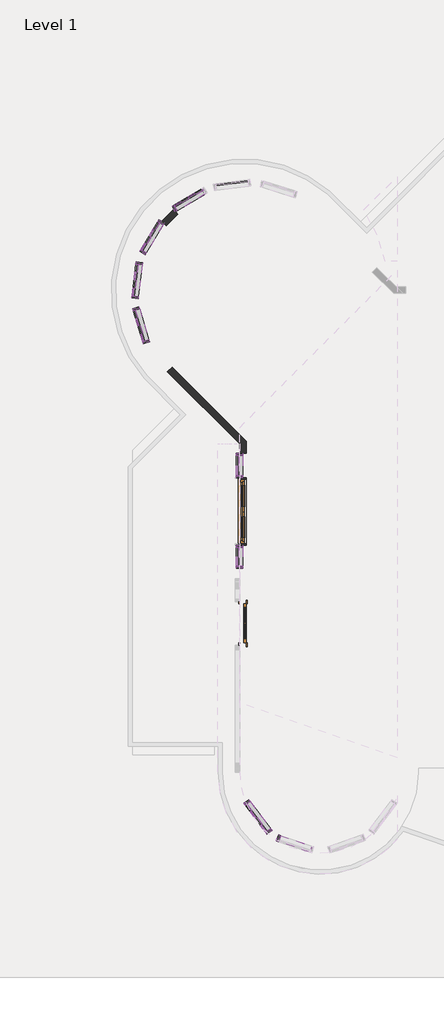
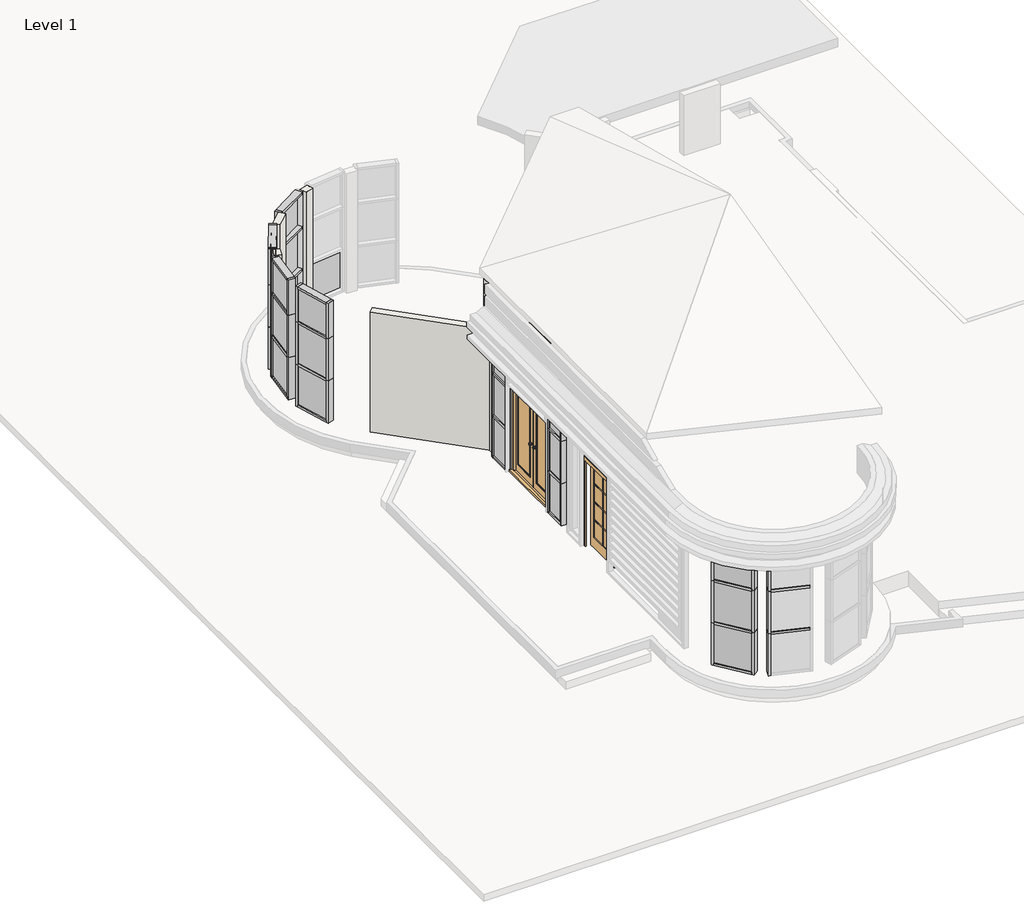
# One storey, part 1 of 4: 73 members, 22 plates, 6 walls, 2 doors.
"""IFC4 building model written with IfcOpenShell, lengths in millimetres."""

from ifc_helpers import new_model, si_unit, point, frame_2d, origin, origin_with_axes, place, context, project, spatial, polyline, circle_curve, trimmed, segment, composite_curve, outline, extrude, faceted_brep, transform, mapped, element, save
from components import door_8_lite_patio_door_w_transom_5280_db97a988, extdbl_3_1510_x_2110mm_da252324, rectangular_mullion_50_x_150mm_306d9536, rectangular_mullion_50_x_150mm_b753879e, rectangular_mullion_50_x_150mm_54334a98, rectangular_mullion_50_x_150mm_e9a6231c, rectangular_mullion_50_x_150mm_8999202d, rectangular_mullion_50_x_150mm_a0a80ad6, rectangular_mullion_50_x_150mm_e9c7c7e3, rectangular_mullion_50_x_150mm_0539f9e4, rectangular_mullion_50_x_150mm_eeb88b28, rectangular_mullion_50_x_150mm_bbba4ab8, rectangular_mullion_50_x_150mm_0c82eb51, rectangular_mullion_50_x_150mm_519b93b0, rectangular_mullion_50_x_150mm_987aa74a, rectangular_mullion_50_x_150mm_48361b01, rectangular_mullion_50_x_150mm_030a5d58, rectangular_mullion_50_x_150mm_daa8cdbe, rectangular_mullion_50_x_150mm_ae5d5628, rectangular_mullion_50_x_150mm_7cabd389, rectangular_mullion_50_x_150mm_0c16336d, rectangular_mullion_50_x_150mm_73a4a083, system_panel_glazed_84004d27, system_panel_glazed_ea0553d6, system_panel_glazed_a4d4e721, system_panel_glazed_57b9541b, system_panel_glazed_c8547359, system_panel_glazed_fb9fd98d, system_panel_glazed_4ee038b0, system_panel_glazed_db75a631, system_panel_glazed_a4be1827, system_panel_glazed_e302ad19, system_panel_glazed_0caff73c, system_panel_glazed_11e41723, system_panel_glazed_2d69d382, system_panel_glazed_ba248cac, system_panel_glazed_2f951cd1, system_panel_glazed_489dbc1c, system_panel_glazed_ef35c594, system_panel_glazed_692667b3, system_panel_glazed_069f12c1, system_panel_glazed_03557e9a, system_panel_glazed_902a8636, system_panel_glazed_ace2095a

model = new_model("IFC4")

# Units and contexts
model_context = context("Model", 3, world=origin())
ifc_project = project(units=[si_unit("LENGTHUNIT", "METRE", prefix="MILLI")], contexts=[model_context])

# Site, building, storey
site = spatial("IfcSite", under=ifc_project)
building = spatial("IfcBuilding", under=site)
storey = spatial("IfcBuildingStorey", under=building, Name="Level 1", Elevation=0.0)

# Doors
placement = place(None, origin())
door_8_lite_patio_door_w_transom_5280_shape = door_8_lite_patio_door_w_transom_5280_db97a988(model_context)
element("IfcDoor", 1, ObjectType="8_lite_patio_door_w_transom_5280 : 36\" x 80\" w/transom\"", at=placement, inside=storey, context=model_context, shape_type="MappedRepresentation", body=[
    mapped(door_8_lite_patio_door_w_transom_5280_shape, transform((30896.2049406, 20228.047331, 360.0), x_axis=(0.0, -1.0, 0.0), y_axis=(1.0, 0.0, 0.0), z_axis=(0.0, 0.0, 1.0))),
])
extdbl_3_1510_x_2110mm_shape = extdbl_3_1510_x_2110mm_da252324(model_context)
element("IfcDoor", 2, ObjectType="ExtDbl (3) : 1510 x 2110mm", at=placement, inside=storey, context=model_context, shape_type="MappedRepresentation", body=[
    mapped(extdbl_3_1510_x_2110mm_shape, transform((30896.2049406, 22927.0678064, 360.0), x_axis=(0.0, 1.0, 0.0), y_axis=(-1.0, 0.0, 0.0), z_axis=(0.0, 0.0, 1.0))),
])

# Members
rectangular_mullion_50_x_150mm_shape = rectangular_mullion_50_x_150mm_306d9536(model_context)
element("IfcMember", 3, ObjectType="Rectangular Mullion : 50 x 150mm", at=placement, inside=storey, context=model_context, shape_type="MappedRepresentation", body=[
    mapped(rectangular_mullion_50_x_150mm_shape, transform((29318.1054037, 30044.3469264, 360.0), x_axis=(0.0, 0.0, -1.0), y_axis=(0.5142878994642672, -0.8576176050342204, 0.0), z_axis=(-0.8576176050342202, -0.5142878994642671, 0.0))),
])
rectangular_mullion_50_x_150mm_2_shape = rectangular_mullion_50_x_150mm_b753879e(model_context)
element("IfcMember", 4, ObjectType="Rectangular Mullion : 50 x 150mm", at=placement, inside=storey, context=model_context, shape_type="MappedRepresentation", body=[
    mapped(rectangular_mullion_50_x_150mm_2_shape, transform((29975.2848233, 30438.4379773, 1360.0), x_axis=(0.0, 0.0, 1.0), y_axis=(0.5142878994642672, -0.8576176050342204, 0.0), z_axis=(0.8576176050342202, 0.5142878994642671, 0.0))),
])
rectangular_mullion_50_x_150mm_3_shape = rectangular_mullion_50_x_150mm_54334a98(model_context)
element("IfcMember", 5, ObjectType="Rectangular Mullion : 50 x 150mm", at=placement, inside=storey, context=model_context, shape_type="MappedRepresentation", body=[
    mapped(rectangular_mullion_50_x_150mm_3_shape, transform((28569.8980949, 29033.6828785, 360.0), x_axis=(0.0, 0.0, -1.0), y_axis=(0.8574675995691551, -0.5145379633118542, 0.0), z_axis=(-0.5145379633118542, -0.8574675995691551, 0.0))),
])
rectangular_mullion_50_x_150mm_4_shape = rectangular_mullion_50_x_150mm_e9a6231c(model_context)
element("IfcMember", 6, ObjectType="Rectangular Mullion : 50 x 150mm", at=placement, inside=storey, context=model_context, shape_type="MappedRepresentation", body=[
    mapped(rectangular_mullion_50_x_150mm_4_shape, transform((28963.7835019, 29690.0853183, 1360.0), x_axis=(0.0, 0.0, 1.0), y_axis=(0.8574675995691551, -0.5145379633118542, 0.0), z_axis=(0.5145379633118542, 0.8574675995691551, 0.0))),
])
rectangular_mullion_50_x_150mm_5_shape = rectangular_mullion_50_x_150mm_8999202d(model_context)
element("IfcMember", 7, ObjectType="Rectangular Mullion : 50 x 150mm", at=placement, inside=storey, context=model_context, shape_type="MappedRepresentation", body=[
    mapped(rectangular_mullion_50_x_150mm_5_shape, transform((28373.7257725, 27976.6899529, 360.0), x_axis=(0.0, 0.0, -1.0), y_axis=(0.9927922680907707, -0.11984787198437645, 0.0), z_axis=(-0.11984787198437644, -0.9927922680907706, 0.0))),
])
rectangular_mullion_50_x_150mm_6_shape = rectangular_mullion_50_x_150mm_a0a80ad6(model_context)
element("IfcMember", 8, ObjectType="Rectangular Mullion : 50 x 150mm", at=placement, inside=storey, context=model_context, shape_type="MappedRepresentation", body=[
    mapped(rectangular_mullion_50_x_150mm_6_shape, transform((28463.8892929, 28723.5838651, 1360.0), x_axis=(0.0, 0.0, 1.0), y_axis=(0.9927922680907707, -0.11984787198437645, 0.0), z_axis=(0.11984787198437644, 0.9927922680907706, 0.0))),
])
rectangular_mullion_50_x_150mm_7_shape = rectangular_mullion_50_x_150mm_e9c7c7e3(model_context)
element("IfcMember", 9, ObjectType="Rectangular Mullion : 50 x 150mm", at=placement, inside=storey, context=model_context, shape_type="MappedRepresentation", body=[
    mapped(rectangular_mullion_50_x_150mm_7_shape, transform((28623.8533688, 26930.1892448, 360.0), x_axis=(0.0, 0.0, -1.0), y_axis=(0.9563818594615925, 0.29211939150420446, 0.0), z_axis=(0.29211939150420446, -0.9563818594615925, 0.0))),
])
rectangular_mullion_50_x_150mm_8_shape = rectangular_mullion_50_x_150mm_0539f9e4(model_context)
element("IfcMember", 10, ObjectType="Rectangular Mullion : 50 x 150mm", at=placement, inside=storey, context=model_context, shape_type="MappedRepresentation", body=[
    mapped(rectangular_mullion_50_x_150mm_8_shape, transform((28401.7904897, 27657.2101666, 1360.0), x_axis=(0.0, 0.0, 1.0), y_axis=(0.9563818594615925, 0.29211939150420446, 0.0), z_axis=(-0.29211939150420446, 0.9563818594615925, 0.0))),
])
rectangular_mullion_50_x_150mm_9_shape = rectangular_mullion_50_x_150mm_eeb88b28(model_context)
element("IfcMember", 11, ObjectType="Rectangular Mullion : 50 x 150mm", at=placement, inside=storey, context=model_context, shape_type="MappedRepresentation", body=[
    mapped(rectangular_mullion_50_x_150mm_9_shape, transform((28989.5104001, 29732.9586983, 360.0), x_axis=(0.5145379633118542, 0.8574675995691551, 0.0), y_axis=(0.8574675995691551, -0.5145379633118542, 0.0), z_axis=(0.0, 0.0, -1.0))),
])
element("IfcMember", 12, ObjectType="Rectangular Mullion : 50 x 150mm", at=placement, inside=storey, context=model_context, shape_type="MappedRepresentation", body=[
    mapped(rectangular_mullion_50_x_150mm_9_shape, transform((28469.8816865, 28773.2234785, 360.0), x_axis=(0.11984787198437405, 0.9927922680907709, 0.0), y_axis=(0.9927922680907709, -0.11984787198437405, 0.0), z_axis=(0.0, 0.0, -1.0))),
])
element("IfcMember", 13, ObjectType="Rectangular Mullion : 50 x 150mm", at=placement, inside=storey, context=model_context, shape_type="MappedRepresentation", body=[
    mapped(rectangular_mullion_50_x_150mm_9_shape, transform((28387.1845201, 27705.0292596, 360.0), x_axis=(-0.2921193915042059, 0.9563818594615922, 0.0), y_axis=(0.9563818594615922, 0.2921193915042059, 0.0), z_axis=(0.0, 0.0, -1.0))),
])
element("IfcMember", 14, ObjectType="Rectangular Mullion : 50 x 150mm", at=placement, inside=storey, context=model_context, shape_type="MappedRepresentation", body=[
    mapped(rectangular_mullion_50_x_150mm_9_shape, transform((30977.0456996, 16126.9490205, 360.0), x_axis=(-0.6041871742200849, 0.7968424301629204, 0.0), y_axis=(0.7968424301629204, 0.6041871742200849, 0.0), z_axis=(0.0, 0.0, -1.0))),
])
element("IfcMember", 15, ObjectType="Rectangular Mullion : 50 x 150mm", at=placement, inside=storey, context=model_context, shape_type="MappedRepresentation", body=[
    mapped(rectangular_mullion_50_x_150mm_9_shape, transform((31708.9027942, 15274.8196227, 360.0), x_axis=(-0.9470945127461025, 0.32095480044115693, 0.0), y_axis=(0.32095480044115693, 0.9470945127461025, 0.0), z_axis=(0.0, 0.0, -1.0))),
])
element("IfcMember", 16, ObjectType="Rectangular Mullion : 50 x 150mm", at=placement, inside=storey, context=model_context, shape_type="MappedRepresentation", body=[
    mapped(rectangular_mullion_50_x_150mm_9_shape, transform((30821.2049406, 22137.0678064, 360.0), x_axis=(0.0, 1.0, 0.0), y_axis=(1.0, 0.0, 0.0), z_axis=(0.0, 0.0, -1.0))),
])
element("IfcMember", 17, ObjectType="Rectangular Mullion : 50 x 150mm", at=placement, inside=storey, context=model_context, shape_type="MappedRepresentation", body=[
    mapped(rectangular_mullion_50_x_150mm_9_shape, transform((30821.2049406, 24297.0678064, 360.0), x_axis=(0.0, 1.0, 0.0), y_axis=(1.0, 0.0, 0.0), z_axis=(0.0, 0.0, -1.0))),
])
element("IfcMember", 18, ObjectType="Rectangular Mullion : 50 x 150mm", at=placement, inside=storey, context=model_context, shape_type="MappedRepresentation", body=[
    mapped(rectangular_mullion_50_x_150mm_9_shape, transform((28989.5104001, 29732.9586983, 1360.0), x_axis=(0.5145379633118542, 0.8574675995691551, 0.0), y_axis=(0.8574675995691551, -0.5145379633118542, 0.0), z_axis=(0.0, 0.0, -1.0))),
])
element("IfcMember", 19, ObjectType="Rectangular Mullion : 50 x 150mm", at=placement, inside=storey, context=model_context, shape_type="MappedRepresentation", body=[
    mapped(rectangular_mullion_50_x_150mm_9_shape, transform((28469.8816865, 28773.2234785, 1360.0), x_axis=(0.11984787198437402, 0.9927922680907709, 0.0), y_axis=(0.9927922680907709, -0.11984787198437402, 0.0), z_axis=(0.0, 0.0, -1.0))),
])
element("IfcMember", 20, ObjectType="Rectangular Mullion : 50 x 150mm", at=placement, inside=storey, context=model_context, shape_type="MappedRepresentation", body=[
    mapped(rectangular_mullion_50_x_150mm_9_shape, transform((28387.1845201, 27705.0292596, 1360.0), x_axis=(-0.29211939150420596, 0.9563818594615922, 0.0), y_axis=(0.9563818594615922, 0.29211939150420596, 0.0), z_axis=(0.0, 0.0, -1.0))),
])
element("IfcMember", 21, ObjectType="Rectangular Mullion : 50 x 150mm", at=placement, inside=storey, context=model_context, shape_type="MappedRepresentation", body=[
    mapped(rectangular_mullion_50_x_150mm_9_shape, transform((30977.0456996, 16126.9490205, 1360.0), x_axis=(-0.6041871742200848, 0.7968424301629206, 0.0), y_axis=(0.7968424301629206, 0.6041871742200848, 0.0), z_axis=(0.0, 0.0, -1.0))),
])
element("IfcMember", 22, ObjectType="Rectangular Mullion : 50 x 150mm", at=placement, inside=storey, context=model_context, shape_type="MappedRepresentation", body=[
    mapped(rectangular_mullion_50_x_150mm_9_shape, transform((31708.9027942, 15274.8196227, 1360.0), x_axis=(-0.9470945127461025, 0.32095480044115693, 0.0), y_axis=(0.32095480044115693, 0.9470945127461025, 0.0), z_axis=(0.0, 0.0, -1.0))),
])
element("IfcMember", 23, ObjectType="Rectangular Mullion : 50 x 150mm", at=placement, inside=storey, context=model_context, shape_type="MappedRepresentation", body=[
    mapped(rectangular_mullion_50_x_150mm_9_shape, transform((30821.2049406, 22137.0678064, 1360.0), x_axis=(0.0, 1.0, 0.0), y_axis=(1.0, 0.0, 0.0), z_axis=(0.0, 0.0, -1.0))),
])
element("IfcMember", 24, ObjectType="Rectangular Mullion : 50 x 150mm", at=placement, inside=storey, context=model_context, shape_type="MappedRepresentation", body=[
    mapped(rectangular_mullion_50_x_150mm_9_shape, transform((30821.2049406, 24297.0678064, 1360.0), x_axis=(0.0, 1.0, 0.0), y_axis=(1.0, 0.0, 0.0), z_axis=(0.0, 0.0, -1.0))),
])
element("IfcMember", 25, ObjectType="Rectangular Mullion : 50 x 150mm", at=placement, inside=storey, context=model_context, shape_type="MappedRepresentation", body=[
    mapped(rectangular_mullion_50_x_150mm_9_shape, transform((29275.2245235, 30018.6325314, 1360.0), x_axis=(-0.8576176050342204, -0.514287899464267, 0.0), y_axis=(0.514287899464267, -0.8576176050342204, 0.0), z_axis=(0.0, 0.0, 1.0))),
])
element("IfcMember", 26, ObjectType="Rectangular Mullion : 50 x 150mm", at=placement, inside=storey, context=model_context, shape_type="MappedRepresentation", body=[
    mapped(rectangular_mullion_50_x_150mm_9_shape, transform((28544.1711967, 28990.8094985, 1360.0), x_axis=(-0.5145379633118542, -0.8574675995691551, 0.0), y_axis=(0.8574675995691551, -0.5145379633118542, 0.0), z_axis=(0.0, 0.0, 1.0))),
])
element("IfcMember", 27, ObjectType="Rectangular Mullion : 50 x 150mm", at=placement, inside=storey, context=model_context, shape_type="MappedRepresentation", body=[
    mapped(rectangular_mullion_50_x_150mm_9_shape, transform((28367.7333789, 27927.0503395, 1360.0), x_axis=(-0.11984787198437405, -0.9927922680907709, 0.0), y_axis=(0.9927922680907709, -0.11984787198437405, 0.0), z_axis=(0.0, 0.0, 1.0))),
])
element("IfcMember", 28, ObjectType="Rectangular Mullion : 50 x 150mm", at=placement, inside=storey, context=model_context, shape_type="MappedRepresentation", body=[
    mapped(rectangular_mullion_50_x_150mm_9_shape, transform((28638.4593384, 26882.3701519, 1360.0), x_axis=(0.2921193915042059, -0.9563818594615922, 0.0), y_axis=(0.9563818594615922, 0.2921193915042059, 0.0), z_axis=(0.0, 0.0, 1.0))),
])
element("IfcMember", 29, ObjectType="Rectangular Mullion : 50 x 150mm", at=placement, inside=storey, context=model_context, shape_type="MappedRepresentation", body=[
    mapped(rectangular_mullion_50_x_150mm_9_shape, transform((31521.5109406, 15408.8718678, 1360.0), x_axis=(0.6041871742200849, -0.7968424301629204, 0.0), y_axis=(0.7968424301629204, 0.6041871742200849, 0.0), z_axis=(0.0, 0.0, 1.0))),
])
element("IfcMember", 30, ObjectType="Rectangular Mullion : 50 x 150mm", at=placement, inside=storey, context=model_context, shape_type="MappedRepresentation", body=[
    mapped(rectangular_mullion_50_x_150mm_9_shape, transform((30821.2049406, 21597.0678064, 1360.0), x_axis=(0.0, -1.0, 0.0), y_axis=(1.0, 0.0, 0.0), z_axis=(0.0, 0.0, 1.0))),
])
element("IfcMember", 31, ObjectType="Rectangular Mullion : 50 x 150mm", at=placement, inside=storey, context=model_context, shape_type="MappedRepresentation", body=[
    mapped(rectangular_mullion_50_x_150mm_9_shape, transform((30821.2049406, 23717.0678064, 1360.0), x_axis=(0.0, -1.0, 0.0), y_axis=(1.0, 0.0, 0.0), z_axis=(0.0, 0.0, 1.0))),
])
element("IfcMember", 32, ObjectType="Rectangular Mullion : 50 x 150mm", at=placement, inside=storey, context=model_context, shape_type="MappedRepresentation", body=[
    mapped(rectangular_mullion_50_x_150mm_9_shape, transform((29275.2245235, 30018.6325314, 2360.0), x_axis=(-0.8576176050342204, -0.514287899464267, 0.0), y_axis=(0.514287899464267, -0.8576176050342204, 0.0), z_axis=(0.0, 0.0, 1.0))),
])
element("IfcMember", 33, ObjectType="Rectangular Mullion : 50 x 150mm", at=placement, inside=storey, context=model_context, shape_type="MappedRepresentation", body=[
    mapped(rectangular_mullion_50_x_150mm_9_shape, transform((28544.1711967, 28990.8094985, 2360.0), x_axis=(-0.5145379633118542, -0.8574675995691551, 0.0), y_axis=(0.8574675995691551, -0.5145379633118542, 0.0), z_axis=(0.0, 0.0, 1.0))),
])
element("IfcMember", 34, ObjectType="Rectangular Mullion : 50 x 150mm", at=placement, inside=storey, context=model_context, shape_type="MappedRepresentation", body=[
    mapped(rectangular_mullion_50_x_150mm_9_shape, transform((28367.7333789, 27927.0503395, 2360.0), x_axis=(-0.11984787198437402, -0.9927922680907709, 0.0), y_axis=(0.9927922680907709, -0.11984787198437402, 0.0), z_axis=(0.0, 0.0, 1.0))),
])
element("IfcMember", 35, ObjectType="Rectangular Mullion : 50 x 150mm", at=placement, inside=storey, context=model_context, shape_type="MappedRepresentation", body=[
    mapped(rectangular_mullion_50_x_150mm_9_shape, transform((28638.4593384, 26882.3701519, 2360.0), x_axis=(0.29211939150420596, -0.9563818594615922, 0.0), y_axis=(0.9563818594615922, 0.29211939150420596, 0.0), z_axis=(0.0, 0.0, 1.0))),
])
element("IfcMember", 36, ObjectType="Rectangular Mullion : 50 x 150mm", at=placement, inside=storey, context=model_context, shape_type="MappedRepresentation", body=[
    mapped(rectangular_mullion_50_x_150mm_9_shape, transform((31521.5109406, 15408.8718678, 2360.0), x_axis=(0.6041871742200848, -0.7968424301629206, 0.0), y_axis=(0.7968424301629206, 0.6041871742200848, 0.0), z_axis=(0.0, 0.0, 1.0))),
])
element("IfcMember", 37, ObjectType="Rectangular Mullion : 50 x 150mm", at=placement, inside=storey, context=model_context, shape_type="MappedRepresentation", body=[
    mapped(rectangular_mullion_50_x_150mm_9_shape, transform((30821.2049406, 21597.0678064, 2360.0), x_axis=(0.0, -1.0, 0.0), y_axis=(1.0, 0.0, 0.0), z_axis=(0.0, 0.0, 1.0))),
])
element("IfcMember", 38, ObjectType="Rectangular Mullion : 50 x 150mm", at=placement, inside=storey, context=model_context, shape_type="MappedRepresentation", body=[
    mapped(rectangular_mullion_50_x_150mm_9_shape, transform((30821.2049406, 23717.0678064, 2360.0), x_axis=(0.0, -1.0, 0.0), y_axis=(1.0, 0.0, 0.0), z_axis=(0.0, 0.0, 1.0))),
])
element("IfcMember", 39, ObjectType="Rectangular Mullion : 50 x 150mm", at=placement, inside=storey, context=model_context, shape_type="MappedRepresentation", body=[
    mapped(rectangular_mullion_50_x_150mm_shape, transform((29975.2848233, 30438.4379773, 3200.0), x_axis=(0.0, 0.0, 1.0), y_axis=(0.5142878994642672, -0.8576176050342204, 0.0), z_axis=(0.8576176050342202, 0.5142878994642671, 0.0))),
])
element("IfcMember", 40, ObjectType="Rectangular Mullion : 50 x 150mm", at=placement, inside=storey, context=model_context, shape_type="MappedRepresentation", body=[
    mapped(rectangular_mullion_50_x_150mm_2_shape, transform((29975.2848233, 30438.4379773, 2360.0), x_axis=(0.0, 0.0, 1.0), y_axis=(0.5142878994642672, -0.8576176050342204, 0.0), z_axis=(0.8576176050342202, 0.5142878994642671, 0.0))),
])
rectangular_mullion_50_x_150mm_10_shape = rectangular_mullion_50_x_150mm_bbba4ab8(model_context)
element("IfcMember", 41, ObjectType="Rectangular Mullion : 50 x 150mm", at=placement, inside=storey, context=model_context, shape_type="MappedRepresentation", body=[
    mapped(rectangular_mullion_50_x_150mm_10_shape, transform((29275.2245235, 30018.6325314, 3200.0), x_axis=(-0.8576176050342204, -0.5142878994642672, 0.0), y_axis=(0.5142878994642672, -0.8576176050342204, 0.0), z_axis=(0.0, 0.0, 1.0))),
])
element("IfcMember", 42, ObjectType="Rectangular Mullion : 50 x 150mm", at=placement, inside=storey, context=model_context, shape_type="MappedRepresentation", body=[
    mapped(rectangular_mullion_50_x_150mm_10_shape, transform((28544.1711967, 28990.8094985, 3200.0), x_axis=(-0.5145379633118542, -0.8574675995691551, 0.0), y_axis=(0.8574675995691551, -0.5145379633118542, 0.0), z_axis=(0.0, 0.0, 1.0))),
])
element("IfcMember", 43, ObjectType="Rectangular Mullion : 50 x 150mm", at=placement, inside=storey, context=model_context, shape_type="MappedRepresentation", body=[
    mapped(rectangular_mullion_50_x_150mm_10_shape, transform((28367.7333789, 27927.0503395, 3200.0), x_axis=(-0.11984787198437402, -0.9927922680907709, 0.0), y_axis=(0.9927922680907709, -0.11984787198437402, 0.0), z_axis=(0.0, 0.0, 1.0))),
])
element("IfcMember", 44, ObjectType="Rectangular Mullion : 50 x 150mm", at=placement, inside=storey, context=model_context, shape_type="MappedRepresentation", body=[
    mapped(rectangular_mullion_50_x_150mm_10_shape, transform((28638.4593384, 26882.3701519, 3200.0), x_axis=(0.29211939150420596, -0.9563818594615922, 0.0), y_axis=(0.9563818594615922, 0.29211939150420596, 0.0), z_axis=(0.0, 0.0, 1.0))),
])
element("IfcMember", 45, ObjectType="Rectangular Mullion : 50 x 150mm", at=placement, inside=storey, context=model_context, shape_type="MappedRepresentation", body=[
    mapped(rectangular_mullion_50_x_150mm_10_shape, transform((31521.5109406, 15408.8718678, 3200.0), x_axis=(0.6041871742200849, -0.7968424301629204, 0.0), y_axis=(0.7968424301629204, 0.6041871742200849, 0.0), z_axis=(0.0, 0.0, 1.0))),
])
element("IfcMember", 46, ObjectType="Rectangular Mullion : 50 x 150mm", at=placement, inside=storey, context=model_context, shape_type="MappedRepresentation", body=[
    mapped(rectangular_mullion_50_x_150mm_10_shape, transform((28989.5104001, 29732.9586983, 2360.0), x_axis=(0.5145379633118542, 0.8574675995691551, 0.0), y_axis=(0.8574675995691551, -0.5145379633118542, 0.0), z_axis=(0.0, 0.0, -1.0))),
])
element("IfcMember", 47, ObjectType="Rectangular Mullion : 50 x 150mm", at=placement, inside=storey, context=model_context, shape_type="MappedRepresentation", body=[
    mapped(rectangular_mullion_50_x_150mm_10_shape, transform((28469.8816865, 28773.2234785, 2360.0), x_axis=(0.11984787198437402, 0.9927922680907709, 0.0), y_axis=(0.9927922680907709, -0.11984787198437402, 0.0), z_axis=(0.0, 0.0, -1.0))),
])
element("IfcMember", 48, ObjectType="Rectangular Mullion : 50 x 150mm", at=placement, inside=storey, context=model_context, shape_type="MappedRepresentation", body=[
    mapped(rectangular_mullion_50_x_150mm_10_shape, transform((28387.1845201, 27705.0292596, 2360.0), x_axis=(-0.29211939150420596, 0.9563818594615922, 0.0), y_axis=(0.9563818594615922, 0.29211939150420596, 0.0), z_axis=(0.0, 0.0, -1.0))),
])
element("IfcMember", 49, ObjectType="Rectangular Mullion : 50 x 150mm", at=placement, inside=storey, context=model_context, shape_type="MappedRepresentation", body=[
    mapped(rectangular_mullion_50_x_150mm_10_shape, transform((30977.0456996, 16126.9490205, 2360.0), x_axis=(-0.6041871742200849, 0.7968424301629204, 0.0), y_axis=(0.7968424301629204, 0.6041871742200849, 0.0), z_axis=(0.0, 0.0, -1.0))),
])
element("IfcMember", 50, ObjectType="Rectangular Mullion : 50 x 150mm", at=placement, inside=storey, context=model_context, shape_type="MappedRepresentation", body=[
    mapped(rectangular_mullion_50_x_150mm_10_shape, transform((31708.9027942, 15274.8196227, 2360.0), x_axis=(-0.9470945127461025, 0.32095480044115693, 0.0), y_axis=(0.32095480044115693, 0.9470945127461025, 0.0), z_axis=(0.0, 0.0, -1.0))),
])
element("IfcMember", 51, ObjectType="Rectangular Mullion : 50 x 150mm", at=placement, inside=storey, context=model_context, shape_type="MappedRepresentation", body=[
    mapped(rectangular_mullion_50_x_150mm_3_shape, transform((28963.7835019, 29690.0853183, 3200.0), x_axis=(0.0, 0.0, 1.0), y_axis=(0.8574675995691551, -0.5145379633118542, 0.0), z_axis=(0.5145379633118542, 0.8574675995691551, 0.0))),
])
element("IfcMember", 52, ObjectType="Rectangular Mullion : 50 x 150mm", at=placement, inside=storey, context=model_context, shape_type="MappedRepresentation", body=[
    mapped(rectangular_mullion_50_x_150mm_4_shape, transform((28963.7835019, 29690.0853183, 2360.0), x_axis=(0.0, 0.0, 1.0), y_axis=(0.8574675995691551, -0.5145379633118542, 0.0), z_axis=(0.5145379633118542, 0.8574675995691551, 0.0))),
])
element("IfcMember", 53, ObjectType="Rectangular Mullion : 50 x 150mm", at=placement, inside=storey, context=model_context, shape_type="MappedRepresentation", body=[
    mapped(rectangular_mullion_50_x_150mm_5_shape, transform((28463.8892929, 28723.5838651, 3200.0), x_axis=(0.0, 0.0, 1.0), y_axis=(0.9927922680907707, -0.11984787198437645, 0.0), z_axis=(0.11984787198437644, 0.9927922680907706, 0.0))),
])
element("IfcMember", 54, ObjectType="Rectangular Mullion : 50 x 150mm", at=placement, inside=storey, context=model_context, shape_type="MappedRepresentation", body=[
    mapped(rectangular_mullion_50_x_150mm_6_shape, transform((28463.8892929, 28723.5838651, 2360.0), x_axis=(0.0, 0.0, 1.0), y_axis=(0.9927922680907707, -0.11984787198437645, 0.0), z_axis=(0.11984787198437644, 0.9927922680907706, 0.0))),
])
element("IfcMember", 55, ObjectType="Rectangular Mullion : 50 x 150mm", at=placement, inside=storey, context=model_context, shape_type="MappedRepresentation", body=[
    mapped(rectangular_mullion_50_x_150mm_7_shape, transform((28401.7904897, 27657.2101666, 3200.0), x_axis=(0.0, 0.0, 1.0), y_axis=(0.9563818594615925, 0.29211939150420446, 0.0), z_axis=(-0.29211939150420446, 0.9563818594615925, 0.0))),
])
element("IfcMember", 56, ObjectType="Rectangular Mullion : 50 x 150mm", at=placement, inside=storey, context=model_context, shape_type="MappedRepresentation", body=[
    mapped(rectangular_mullion_50_x_150mm_8_shape, transform((28401.7904897, 27657.2101666, 2360.0), x_axis=(0.0, 0.0, 1.0), y_axis=(0.9563818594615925, 0.29211939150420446, 0.0), z_axis=(-0.29211939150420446, 0.9563818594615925, 0.0))),
])
rectangular_mullion_50_x_150mm_11_shape = rectangular_mullion_50_x_150mm_0c82eb51(model_context)
element("IfcMember", 57, ObjectType="Rectangular Mullion : 50 x 150mm", at=placement, inside=storey, context=model_context, shape_type="MappedRepresentation", body=[
    mapped(rectangular_mullion_50_x_150mm_11_shape, transform((31491.3015819, 15448.7139893, 360.0), x_axis=(0.0, 0.0, -1.0), y_axis=(0.796842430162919, 0.6041871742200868, 0.0), z_axis=(0.6041871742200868, -0.796842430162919, 0.0))),
])
rectangular_mullion_50_x_150mm_12_shape = rectangular_mullion_50_x_150mm_519b93b0(model_context)
element("IfcMember", 58, ObjectType="Rectangular Mullion : 50 x 150mm", at=placement, inside=storey, context=model_context, shape_type="MappedRepresentation", body=[
    mapped(rectangular_mullion_50_x_150mm_12_shape, transform((31007.2550583, 16087.106899, 1360.0), x_axis=(0.0, 0.0, 1.0), y_axis=(0.796842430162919, 0.6041871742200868, 0.0), z_axis=(-0.6041871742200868, 0.796842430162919, 0.0))),
])
rectangular_mullion_50_x_150mm_13_shape = rectangular_mullion_50_x_150mm_987aa74a(model_context)
element("IfcMember", 59, ObjectType="Rectangular Mullion : 50 x 150mm", at=placement, inside=storey, context=model_context, shape_type="MappedRepresentation", body=[
    mapped(rectangular_mullion_50_x_150mm_13_shape, transform((31756.2575198, 15258.7718827, 1360.0), x_axis=(0.0, 0.0, 1.0), y_axis=(0.3209548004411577, 0.9470945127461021, 0.0), z_axis=(-0.9470945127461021, 0.3209548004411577, 0.0))),
])
element("IfcMember", 60, ObjectType="Rectangular Mullion : 50 x 150mm", at=placement, inside=storey, context=model_context, shape_type="MappedRepresentation", body=[
    mapped(rectangular_mullion_50_x_150mm_11_shape, transform((31007.2550583, 16087.106899, 3200.0), x_axis=(0.0, 0.0, 1.0), y_axis=(0.796842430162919, 0.6041871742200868, 0.0), z_axis=(-0.6041871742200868, 0.796842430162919, 0.0))),
])
element("IfcMember", 61, ObjectType="Rectangular Mullion : 50 x 150mm", at=placement, inside=storey, context=model_context, shape_type="MappedRepresentation", body=[
    mapped(rectangular_mullion_50_x_150mm_12_shape, transform((31007.2550583, 16087.106899, 2360.0), x_axis=(0.0, 0.0, 1.0), y_axis=(0.796842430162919, 0.6041871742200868, 0.0), z_axis=(-0.6041871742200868, 0.796842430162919, 0.0))),
])
rectangular_mullion_50_x_150mm_14_shape = rectangular_mullion_50_x_150mm_48361b01(model_context)
element("IfcMember", 62, ObjectType="Rectangular Mullion : 50 x 150mm", at=placement, inside=storey, context=model_context, shape_type="MappedRepresentation", body=[
    mapped(rectangular_mullion_50_x_150mm_14_shape, transform((31756.2575198, 15258.7718827, 3200.0), x_axis=(0.0, 0.0, 1.0), y_axis=(0.3209548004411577, 0.9470945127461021, 0.0), z_axis=(-0.9470945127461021, 0.3209548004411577, 0.0))),
])
element("IfcMember", 63, ObjectType="Rectangular Mullion : 50 x 150mm", at=placement, inside=storey, context=model_context, shape_type="MappedRepresentation", body=[
    mapped(rectangular_mullion_50_x_150mm_13_shape, transform((31756.2575198, 15258.7718827, 2360.0), x_axis=(0.0, 0.0, 1.0), y_axis=(0.3209548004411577, 0.9470945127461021, 0.0), z_axis=(-0.9470945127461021, 0.3209548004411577, 0.0))),
])
rectangular_mullion_50_x_150mm_15_shape = rectangular_mullion_50_x_150mm_030a5d58(model_context)
element("IfcMember", 64, ObjectType="Rectangular Mullion : 50 x 150mm", at=placement, inside=storey, context=model_context, shape_type="MappedRepresentation", body=[
    mapped(rectangular_mullion_50_x_150mm_15_shape, transform((30821.2049406, 22087.0678064, 2936.7028746), x_axis=(0.0, 0.0, 1.0), y_axis=(1.0, 0.0, 0.0), z_axis=(0.0, 1.0, 0.0))),
])
element("IfcMember", 65, ObjectType="Rectangular Mullion : 50 x 150mm", at=placement, inside=storey, context=model_context, shape_type="MappedRepresentation", body=[
    mapped(rectangular_mullion_50_x_150mm_15_shape, transform((30821.2049406, 21647.0678064, 360.0), x_axis=(0.0, 0.0, -1.0), y_axis=(1.0, 0.0, 0.0), z_axis=(0.0, -1.0, 0.0))),
])
rectangular_mullion_50_x_150mm_16_shape = rectangular_mullion_50_x_150mm_daa8cdbe(model_context)
element("IfcMember", 66, ObjectType="Rectangular Mullion : 50 x 150mm", at=placement, inside=storey, context=model_context, shape_type="MappedRepresentation", body=[
    mapped(rectangular_mullion_50_x_150mm_16_shape, transform((30821.2049406, 22087.0678064, 1360.0), x_axis=(0.0, 0.0, 1.0), y_axis=(1.0, 0.0, 0.0), z_axis=(0.0, 1.0, 0.0))),
])
element("IfcMember", 67, ObjectType="Rectangular Mullion : 50 x 150mm", at=placement, inside=storey, context=model_context, shape_type="MappedRepresentation", body=[
    mapped(rectangular_mullion_50_x_150mm_16_shape, transform((30821.2049406, 22087.0678064, 2360.0), x_axis=(0.0, 0.0, 1.0), y_axis=(1.0, 0.0, 0.0), z_axis=(0.0, 1.0, 0.0))),
])
rectangular_mullion_50_x_150mm_17_shape = rectangular_mullion_50_x_150mm_ae5d5628(model_context)
element("IfcMember", 68, ObjectType="Rectangular Mullion : 50 x 150mm", at=placement, inside=storey, context=model_context, shape_type="MappedRepresentation", body=[
    mapped(rectangular_mullion_50_x_150mm_17_shape, transform((30821.2049406, 24247.0678064, 2922.270441), x_axis=(0.0, 0.0, 1.0), y_axis=(1.0, 0.0, 0.0), z_axis=(0.0, 1.0, 0.0))),
])
element("IfcMember", 69, ObjectType="Rectangular Mullion : 50 x 150mm", at=placement, inside=storey, context=model_context, shape_type="MappedRepresentation", body=[
    mapped(rectangular_mullion_50_x_150mm_17_shape, transform((30821.2049406, 23767.0678064, 360.0), x_axis=(0.0, 0.0, -1.0), y_axis=(1.0, 0.0, 0.0), z_axis=(0.0, -1.0, 0.0))),
])
rectangular_mullion_50_x_150mm_18_shape = rectangular_mullion_50_x_150mm_7cabd389(model_context)
element("IfcMember", 70, ObjectType="Rectangular Mullion : 50 x 150mm", at=placement, inside=storey, context=model_context, shape_type="MappedRepresentation", body=[
    mapped(rectangular_mullion_50_x_150mm_18_shape, transform((30821.2049406, 24247.0678064, 1360.0), x_axis=(0.0, 0.0, 1.0), y_axis=(1.0, 0.0, 0.0), z_axis=(0.0, 1.0, 0.0))),
])
element("IfcMember", 71, ObjectType="Rectangular Mullion : 50 x 150mm", at=placement, inside=storey, context=model_context, shape_type="MappedRepresentation", body=[
    mapped(rectangular_mullion_50_x_150mm_18_shape, transform((30821.2049406, 24247.0678064, 2360.0), x_axis=(0.0, 0.0, 1.0), y_axis=(1.0, 0.0, 0.0), z_axis=(0.0, 1.0, 0.0))),
])
rectangular_mullion_50_x_150mm_19_shape = rectangular_mullion_50_x_150mm_0c16336d(model_context)
element("IfcMember", 72, ObjectType="Rectangular Mullion : 50 x 150mm", at=placement, inside=storey, context=model_context, shape_type="MappedRepresentation", body=[
    mapped(rectangular_mullion_50_x_150mm_19_shape, transform((30821.2049406, 21597.0678064, 2936.7028746), x_axis=(0.0, -1.0, 0.0), y_axis=(1.0, 0.0, 0.0), z_axis=(0.0, 0.0, 1.0))),
])
element("IfcMember", 73, ObjectType="Rectangular Mullion : 50 x 150mm", at=placement, inside=storey, context=model_context, shape_type="MappedRepresentation", body=[
    mapped(rectangular_mullion_50_x_150mm_19_shape, transform((30821.2049406, 22137.0678064, 2360.0), x_axis=(0.0, 1.0, 0.0), y_axis=(1.0, 0.0, 0.0), z_axis=(0.0, 0.0, -1.0))),
])
rectangular_mullion_50_x_150mm_20_shape = rectangular_mullion_50_x_150mm_73a4a083(model_context)
element("IfcMember", 74, ObjectType="Rectangular Mullion : 50 x 150mm", at=placement, inside=storey, context=model_context, shape_type="MappedRepresentation", body=[
    mapped(rectangular_mullion_50_x_150mm_20_shape, transform((30821.2049406, 23717.0678064, 2922.270441), x_axis=(0.0, -1.0, 0.0), y_axis=(1.0, 0.0, 0.0), z_axis=(0.0, 0.0, 1.0))),
])
element("IfcMember", 75, ObjectType="Rectangular Mullion : 50 x 150mm", at=placement, inside=storey, context=model_context, shape_type="MappedRepresentation", body=[
    mapped(rectangular_mullion_50_x_150mm_20_shape, transform((30821.2049406, 24297.0678064, 2360.0), x_axis=(0.0, 1.0, 0.0), y_axis=(1.0, 0.0, 0.0), z_axis=(0.0, 0.0, -1.0))),
])

# Plates
system_panel_glazed_shape = system_panel_glazed_84004d27(model_context)
element("IfcPlate", 76, ObjectType="System Panel : Glazed", at=placement, inside=storey, context=model_context, shape_type="MappedRepresentation", body=[
    mapped(system_panel_glazed_shape, transform((30645.0583554, 30586.5872235, 410.0), x_axis=(0.9921757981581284, 0.1248486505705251, 0.0), y_axis=(-0.1248486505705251, 0.9921757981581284, 0.0), z_axis=(0.0, 0.0, 1.0))),
])
system_panel_glazed_2_shape = system_panel_glazed_ea0553d6(model_context)
element("IfcPlate", 77, ObjectType="System Panel : Glazed", at=placement, inside=storey, context=model_context, shape_type="MappedRepresentation", body=[
    mapped(system_panel_glazed_2_shape, transform((29646.6951135, 30241.3924518, 410.0), x_axis=(0.8576176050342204, 0.514287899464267, 0.0), y_axis=(-0.514287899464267, 0.8576176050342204, 0.0), z_axis=(0.0, 0.0, 1.0))),
])
system_panel_glazed_3_shape = system_panel_glazed_a4d4e721(model_context)
element("IfcPlate", 78, ObjectType="System Panel : Glazed", at=placement, inside=storey, context=model_context, shape_type="MappedRepresentation", body=[
    mapped(system_panel_glazed_3_shape, transform((28766.8407984, 29361.8840984, 410.0), x_axis=(0.5145379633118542, 0.8574675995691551, 0.0), y_axis=(-0.8574675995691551, 0.5145379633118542, 0.0), z_axis=(0.0, 0.0, 1.0))),
])
system_panel_glazed_4_shape = system_panel_glazed_57b9541b(model_context)
element("IfcPlate", 79, ObjectType="System Panel : Glazed", at=placement, inside=storey, context=model_context, shape_type="MappedRepresentation", body=[
    mapped(system_panel_glazed_4_shape, transform((28418.8075327, 28350.136909, 410.0), x_axis=(0.11984787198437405, 0.9927922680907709, 0.0), y_axis=(-0.9927922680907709, 0.11984787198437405, 0.0), z_axis=(0.0, 0.0, 1.0))),
])
system_panel_glazed_5_shape = system_panel_glazed_c8547359(model_context)
element("IfcPlate", 80, ObjectType="System Panel : Glazed", at=placement, inside=storey, context=model_context, shape_type="MappedRepresentation", body=[
    mapped(system_panel_glazed_5_shape, transform((28512.8219292, 27293.6997057, 410.0), x_axis=(-0.2921193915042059, 0.9563818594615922, 0.0), y_axis=(-0.9563818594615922, -0.2921193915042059, 0.0), z_axis=(0.0, 0.0, 1.0))),
])
system_panel_glazed_6_shape = system_panel_glazed_fb9fd98d(model_context)
element("IfcPlate", 81, ObjectType="System Panel : Glazed", at=placement, inside=storey, context=model_context, shape_type="MappedRepresentation", body=[
    mapped(system_panel_glazed_6_shape, transform((29646.6951135, 30241.3924518, 1385.0), x_axis=(0.8576176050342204, 0.514287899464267, 0.0), y_axis=(-0.514287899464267, 0.8576176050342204, 0.0), z_axis=(0.0, 0.0, 1.0))),
])
system_panel_glazed_7_shape = system_panel_glazed_4ee038b0(model_context)
element("IfcPlate", 82, ObjectType="System Panel : Glazed", at=placement, inside=storey, context=model_context, shape_type="MappedRepresentation", body=[
    mapped(system_panel_glazed_7_shape, transform((28766.8407984, 29361.8840984, 1385.0), x_axis=(0.5145379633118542, 0.8574675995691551, 0.0), y_axis=(-0.8574675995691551, 0.5145379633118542, 0.0), z_axis=(0.0, 0.0, 1.0))),
])
system_panel_glazed_8_shape = system_panel_glazed_db75a631(model_context)
element("IfcPlate", 83, ObjectType="System Panel : Glazed", at=placement, inside=storey, context=model_context, shape_type="MappedRepresentation", body=[
    mapped(system_panel_glazed_8_shape, transform((28418.8075327, 28350.136909, 1385.0), x_axis=(0.11984787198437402, 0.9927922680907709, 0.0), y_axis=(-0.9927922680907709, 0.11984787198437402, 0.0), z_axis=(0.0, 0.0, 1.0))),
])
system_panel_glazed_9_shape = system_panel_glazed_a4be1827(model_context)
element("IfcPlate", 84, ObjectType="System Panel : Glazed", at=placement, inside=storey, context=model_context, shape_type="MappedRepresentation", body=[
    mapped(system_panel_glazed_9_shape, transform((28512.8219292, 27293.6997057, 1385.0), x_axis=(-0.29211939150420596, 0.9563818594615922, 0.0), y_axis=(-0.9563818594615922, -0.29211939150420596, 0.0), z_axis=(0.0, 0.0, 1.0))),
])
system_panel_glazed_10_shape = system_panel_glazed_e302ad19(model_context)
element("IfcPlate", 85, ObjectType="System Panel : Glazed", at=placement, inside=storey, context=model_context, shape_type="MappedRepresentation", body=[
    mapped(system_panel_glazed_10_shape, transform((29646.6951135, 30241.3924518, 2385.0), x_axis=(0.8576176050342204, 0.5142878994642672, 0.0), y_axis=(-0.5142878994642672, 0.8576176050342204, 0.0), z_axis=(0.0, 0.0, 1.0))),
])
system_panel_glazed_11_shape = system_panel_glazed_0caff73c(model_context)
element("IfcPlate", 86, ObjectType="System Panel : Glazed", at=placement, inside=storey, context=model_context, shape_type="MappedRepresentation", body=[
    mapped(system_panel_glazed_11_shape, transform((28766.8407984, 29361.8840984, 2385.0), x_axis=(0.5145379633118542, 0.8574675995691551, 0.0), y_axis=(-0.8574675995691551, 0.5145379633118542, 0.0), z_axis=(0.0, 0.0, 1.0))),
])
system_panel_glazed_12_shape = system_panel_glazed_11e41723(model_context)
element("IfcPlate", 87, ObjectType="System Panel : Glazed", at=placement, inside=storey, context=model_context, shape_type="MappedRepresentation", body=[
    mapped(system_panel_glazed_12_shape, transform((28418.8075327, 28350.136909, 2385.0), x_axis=(0.11984787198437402, 0.9927922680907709, 0.0), y_axis=(-0.9927922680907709, 0.11984787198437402, 0.0), z_axis=(0.0, 0.0, 1.0))),
])
system_panel_glazed_13_shape = system_panel_glazed_2d69d382(model_context)
element("IfcPlate", 88, ObjectType="System Panel : Glazed", at=placement, inside=storey, context=model_context, shape_type="MappedRepresentation", body=[
    mapped(system_panel_glazed_13_shape, transform((28512.8219292, 27293.6997057, 2385.0), x_axis=(-0.29211939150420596, 0.9563818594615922, 0.0), y_axis=(-0.9563818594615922, -0.29211939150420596, 0.0), z_axis=(0.0, 0.0, 1.0))),
])
system_panel_glazed_14_shape = system_panel_glazed_ba248cac(model_context)
element("IfcPlate", 89, ObjectType="System Panel : Glazed", at=placement, inside=storey, context=model_context, shape_type="MappedRepresentation", body=[
    mapped(system_panel_glazed_14_shape, transform((31249.2783201, 15767.9104441, 410.0), x_axis=(-0.6041871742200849, 0.7968424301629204, 0.0), y_axis=(-0.7968424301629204, -0.6041871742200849, 0.0), z_axis=(0.0, 0.0, 1.0))),
])
system_panel_glazed_15_shape = system_panel_glazed_2f951cd1(model_context)
element("IfcPlate", 90, ObjectType="System Panel : Glazed", at=placement, inside=storey, context=model_context, shape_type="MappedRepresentation", body=[
    mapped(system_panel_glazed_15_shape, transform((31249.2783201, 15767.9104441, 1385.0), x_axis=(-0.6041871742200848, 0.7968424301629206, 0.0), y_axis=(-0.7968424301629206, -0.6041871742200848, 0.0), z_axis=(0.0, 0.0, 1.0))),
])
system_panel_glazed_16_shape = system_panel_glazed_489dbc1c(model_context)
element("IfcPlate", 91, ObjectType="System Panel : Glazed", at=placement, inside=storey, context=model_context, shape_type="MappedRepresentation", body=[
    mapped(system_panel_glazed_16_shape, transform((31249.2783201, 15767.9104441, 2385.0), x_axis=(-0.6041871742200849, 0.7968424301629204, 0.0), y_axis=(-0.7968424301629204, -0.6041871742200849, 0.0), z_axis=(0.0, 0.0, 1.0))),
])
system_panel_glazed_17_shape = system_panel_glazed_ef35c594(model_context)
element("IfcPlate", 92, ObjectType="System Panel : Glazed", at=placement, inside=storey, context=model_context, shape_type="MappedRepresentation", body=[
    mapped(system_panel_glazed_17_shape, transform((30821.2049406, 21867.0678064, 410.0), x_axis=(0.0, 1.0, 0.0), y_axis=(-1.0, 0.0, 0.0), z_axis=(0.0, 0.0, 1.0))),
])
system_panel_glazed_18_shape = system_panel_glazed_692667b3(model_context)
element("IfcPlate", 93, ObjectType="System Panel : Glazed", at=placement, inside=storey, context=model_context, shape_type="MappedRepresentation", body=[
    mapped(system_panel_glazed_18_shape, transform((30821.2049406, 24007.0678064, 410.0), x_axis=(0.0, 1.0, 0.0), y_axis=(-1.0, 0.0, 0.0), z_axis=(0.0, 0.0, 1.0))),
])
system_panel_glazed_19_shape = system_panel_glazed_069f12c1(model_context)
element("IfcPlate", 94, ObjectType="System Panel : Glazed", at=placement, inside=storey, context=model_context, shape_type="MappedRepresentation", body=[
    mapped(system_panel_glazed_19_shape, transform((30821.2049406, 21867.0678064, 1385.0), x_axis=(0.0, 1.0, 0.0), y_axis=(-1.0, 0.0, 0.0), z_axis=(0.0, 0.0, 1.0))),
])
system_panel_glazed_20_shape = system_panel_glazed_03557e9a(model_context)
element("IfcPlate", 95, ObjectType="System Panel : Glazed", at=placement, inside=storey, context=model_context, shape_type="MappedRepresentation", body=[
    mapped(system_panel_glazed_20_shape, transform((30821.2049406, 24007.0678064, 1385.0), x_axis=(0.0, 1.0, 0.0), y_axis=(-1.0, 0.0, 0.0), z_axis=(0.0, 0.0, 1.0))),
])
system_panel_glazed_21_shape = system_panel_glazed_902a8636(model_context)
element("IfcPlate", 96, ObjectType="System Panel : Glazed", at=placement, inside=storey, context=model_context, shape_type="MappedRepresentation", body=[
    mapped(system_panel_glazed_21_shape, transform((30821.2049406, 21867.0678064, 2385.0), x_axis=(0.0, 1.0, 0.0), y_axis=(-1.0, 0.0, 0.0), z_axis=(0.0, 0.0, 1.0))),
])
system_panel_glazed_22_shape = system_panel_glazed_ace2095a(model_context)
element("IfcPlate", 97, ObjectType="System Panel : Glazed", at=placement, inside=storey, context=model_context, shape_type="MappedRepresentation", body=[
    mapped(system_panel_glazed_22_shape, transform((30821.2049406, 24007.0678064, 2385.0), x_axis=(0.0, 1.0, 0.0), y_axis=(-1.0, 0.0, 0.0), z_axis=(0.0, 0.0, 1.0))),
])

# Walls
element("IfcWall", 98, ObjectType="Generic -150mm 2", at=placement, inside=storey, context=model_context, shape_type="SweptSolid", body=[
    extrude(outline(polyline([(29235.3407379, 26307.7418576), (30821.2049406, 24726.6193135), (30821.2049406, 24514.8041741), (29129.433643, 26201.5171559), (29235.3407379, 26307.7418576)])), origin_with_axes(), (0.0, 0.0, 1.0), 3200.0),
])
element("IfcWall", 99, ObjectType="Generic -150mm 2", at=placement, inside=storey, context=model_context, shape_type="SweptSolid", body=[
    extrude(outline(composite_curve([segment(polyline([(30216.6826628, 30532.6833415), (30259.863929, 30389.0331474)]), True, "CONTINUOUS"), segment(trimmed(circle_curve(frame_2d((30965.1579428, 28042.7466444)), 2450.0), [point((30259.863929, 30389.0331474))], [point((30072.7998712, 30324.455888))], True, "CARTESIAN"), True, "CONTINUOUS"), segment(polyline([(30072.7998712, 30324.455888), (30018.1657035, 30464.1523722)]), True, "CONTINUOUS"), segment(trimmed(circle_curve(frame_2d((30965.1579428, 28042.7466444)), 2600.0), [point((30018.1657035, 30464.1523722))], [point((30216.6826628, 30532.6833415))], False, "CARTESIAN"), True, "CONTINUOUS")], self_intersect=False)), origin_with_axes(), (0.0, 0.0, 1.0), 3200.0),
])
element("IfcWall", 100, ObjectType="Generic -150mm 2", at=placement, inside=storey, context=model_context, shape_type="SweptSolid", body=[
    extrude(outline(composite_curve([segment(polyline([(29275.2245235, 30018.6325314), (29372.7206823, 29904.6391149)]), True, "CONTINUOUS"), segment(trimmed(circle_curve(frame_2d((30965.1579428, 28042.7466444)), 2450.0), [point((29372.7206823, 29904.6391149))], [point((29103.490066, 29635.4464644))], True, "CARTESIAN"), True, "CONTINUOUS"), segment(polyline([(29103.490066, 29635.4464644), (28989.5104001, 29732.9586983)]), True, "CONTINUOUS"), segment(trimmed(circle_curve(frame_2d((30965.1579428, 28042.7466444)), 2600.0), [point((28989.5104001, 29732.9586983))], [point((29275.2245235, 30018.6325314))], False, "CARTESIAN"), True, "CONTINUOUS")], self_intersect=False)), origin_with_axes(), (0.0, 0.0, 1.0), 3200.0),
])
element("IfcWall", 101, ObjectType="Generic -150mm 2", at=placement, inside=storey, context=model_context, shape_type="SweptSolid", body=[
    extrude(outline(composite_curve([segment(polyline([(28544.1711967, 28990.8094985), (28683.843509, 28936.1135646)]), True, "CONTINUOUS"), segment(trimmed(circle_curve(frame_2d((30965.1579428, 28042.7466444)), 2450.0), [point((28683.843509, 28936.1135646))], [point((28613.8399321, 28731.0805842))], True, "CARTESIAN"), True, "CONTINUOUS"), segment(polyline([(28613.8399321, 28731.0805842), (28469.8816865, 28773.2234785)]), True, "CONTINUOUS"), segment(trimmed(circle_curve(frame_2d((30965.1579428, 28042.7466444)), 2600.0), [point((28469.8816865, 28773.2234785))], [point((28544.1711967, 28990.8094985))], False, "CARTESIAN"), True, "CONTINUOUS")], self_intersect=False)), origin_with_axes(), (0.0, 0.0, 1.0), 3200.0),
])
element("IfcWall", 102, ObjectType="Generic -150mm 2", at=placement, inside=storey, context=model_context, shape_type="Brep", body=[
    faceted_brep([(30971.2049406, 22137.0678064, 0.0), (30971.2049406, 23717.0678064, 0.0), (30971.2049406, 23717.0678064, 2922.270441), (30971.2049406, 23717.0678064, 4310.6356881), (30971.2049406, 22137.0678064, 4335.1507946), (30971.2049406, 22137.0678064, 2936.7028746), (30971.2049406, 22172.0678064, 2470.0), (30971.2049406, 23682.0678064, 2470.0), (30971.2049406, 23682.0678064, 360.0), (30971.2049406, 22172.0678064, 360.0), (30821.2049406, 22137.0678064, 0.0), (30821.2049406, 22137.0678064, 2936.7028746), (30821.2049406, 22137.0678064, 4332.8234111), (30821.2049406, 23717.0678064, 4308.3083046), (30821.2049406, 23717.0678064, 2922.270441), (30821.2049406, 23717.0678064, 0.0), (30821.2049406, 22172.0678064, 2470.0), (30821.2049406, 22172.0678064, 360.0), (30821.2049406, 23682.0678064, 360.0), (30821.2049406, 23682.0678064, 2470.0)], [[[0, 1, 2, 3, 4, 5], [6, 7, 8, 9]], [[10, 11, 12, 13, 14, 15], [16, 17, 18, 19]], [[1, 0, 10, 15]], [[3, 2, 1, 15, 14, 13]], [[0, 5, 4, 12, 11, 10]], [[17, 16, 6, 9]], [[18, 17, 9, 8]], [[19, 18, 8, 7]], [[16, 19, 7, 6]], [[4, 3, 13, 12]]]),
])
element("IfcWall", 103, ObjectType="Generic -150mm 2", at=placement, inside=storey, context=model_context, shape_type="Brep", body=[
    faceted_brep([(30971.2049406, 24297.0678064, 0.0), (30971.2049406, 24577.0678064, 0.0), (30971.2049406, 24577.0678064, 4297.2920226), (30971.2049406, 24297.0678064, 4301.6364718), (30971.2049406, 24297.0678064, 2922.270441), (30821.2049406, 24297.0678064, 0.0), (30821.2049406, 24297.0678064, 2922.270441), (30821.2049406, 24297.0678064, 4299.3090883), (30821.2049406, 24726.6193135, 4292.6442143), (30821.2049406, 24726.6193135, 3200.0), (30821.2049406, 24726.6193135, 0.0), (30821.2049406, 24514.8041741, 0.0)], [[[0, 1, 2, 3, 4]], [[5, 6, 7, 8, 9, 10, 11]], [[1, 0, 5, 11, 10]], [[0, 4, 3, 7, 6, 5]], [[2, 1, 10, 9, 8]], [[3, 2, 8, 7]]]),
])

save(model, "model.ifc")
